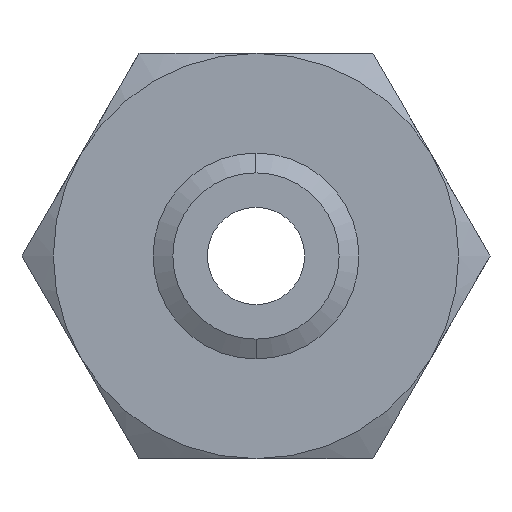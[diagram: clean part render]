
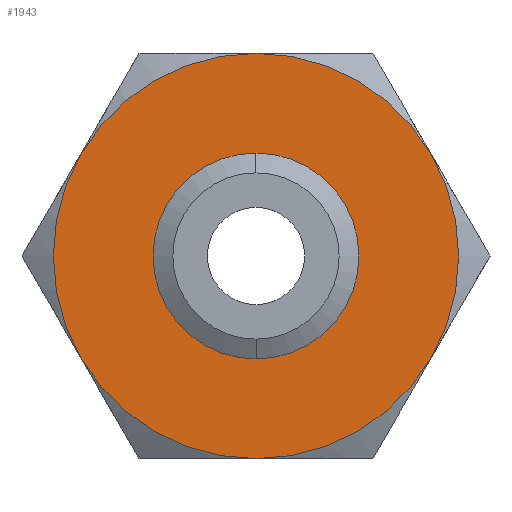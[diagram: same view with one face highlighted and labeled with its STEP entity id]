
A CAD part, front view. The second image highlights one B-rep face of the part: STEP entity #1943.
In plain terms, the highlighted planar face has unit normal (0, -1, 0).
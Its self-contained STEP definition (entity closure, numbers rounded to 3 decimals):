
#765 = CARTESIAN_POINT ( 'NONE',  ( -32.476, 0., 18.75 ) ) ;
#818 = CARTESIAN_POINT ( 'NONE',  ( -32.476, 0., -18.75 ) ) ;
#820 = DIRECTION ( 'NONE',  ( 0., 0., 1. ) ) ;
#821 = DIRECTION ( 'NONE',  ( 0., 1., 0. ) ) ;
#822 = CARTESIAN_POINT ( 'NONE',  ( 0., 0., 0. ) ) ;
#823 = AXIS2_PLACEMENT_3D ( 'NONE', #822, #821, #820 ) ;
#824 = CIRCLE ( 'NONE', #823, 37.5 ) ;
#831 = CARTESIAN_POINT ( 'NONE',  ( 0., 0., 37.5 ) ) ;
#832 = DIRECTION ( 'NONE',  ( 0., 0., 1. ) ) ;
#833 = DIRECTION ( 'NONE',  ( 0., 1., 0. ) ) ;
#834 = CARTESIAN_POINT ( 'NONE',  ( 0., 0., 0. ) ) ;
#835 = AXIS2_PLACEMENT_3D ( 'NONE', #834, #833, #832 ) ;
#836 = CIRCLE ( 'NONE', #835, 37.5 ) ;
#837 = DIRECTION ( 'NONE',  ( 0., 0., 1. ) ) ;
#838 = DIRECTION ( 'NONE',  ( 0., 1., 0. ) ) ;
#839 = CARTESIAN_POINT ( 'NONE',  ( 0., 0., 0. ) ) ;
#840 = AXIS2_PLACEMENT_3D ( 'NONE', #839, #838, #837 ) ;
#841 = CIRCLE ( 'NONE', #840, 37.5 ) ;
#842 = CARTESIAN_POINT ( 'NONE',  ( 32.476, 0., 18.75 ) ) ;
#887 = PLANE ( 'NONE',  #889 ) ;
#888 = CARTESIAN_POINT ( 'NONE',  ( 21.651, 0., -37.5 ) ) ;
#889 = AXIS2_PLACEMENT_3D ( 'NONE', #888, #949, #948 ) ;
#890 = FACE_BOUND ( 'NONE', #1949, .T. ) ;
#896 = FACE_OUTER_BOUND ( 'NONE', #1874, .T. ) ;
#922 = DIRECTION ( 'NONE',  ( 0., 0., 1. ) ) ;
#923 = DIRECTION ( 'NONE',  ( 0., 1., 0. ) ) ;
#924 = CARTESIAN_POINT ( 'NONE',  ( 0., 0., 0. ) ) ;
#925 = AXIS2_PLACEMENT_3D ( 'NONE', #924, #923, #922 ) ;
#926 = CIRCLE ( 'NONE', #925, 37.5 ) ;
#927 = DIRECTION ( 'NONE',  ( 0., 0., 1. ) ) ;
#928 = DIRECTION ( 'NONE',  ( 0., 1., 0. ) ) ;
#929 = CARTESIAN_POINT ( 'NONE',  ( 0., 0., 0. ) ) ;
#930 = AXIS2_PLACEMENT_3D ( 'NONE', #929, #928, #927 ) ;
#931 = CIRCLE ( 'NONE', #930, 37.5 ) ;
#932 = CARTESIAN_POINT ( 'NONE',  ( 0., 0., -37.5 ) ) ;
#933 = CARTESIAN_POINT ( 'NONE',  ( 32.476, 0., -18.75 ) ) ;
#934 = DIRECTION ( 'NONE',  ( 0., 0., 1. ) ) ;
#935 = DIRECTION ( 'NONE',  ( 0., 1., 0. ) ) ;
#936 = CARTESIAN_POINT ( 'NONE',  ( 0., 0., 0. ) ) ;
#937 = AXIS2_PLACEMENT_3D ( 'NONE', #936, #935, #934 ) ;
#938 = CIRCLE ( 'NONE', #937, 37.5 ) ;
#948 = DIRECTION ( 'NONE',  ( 0., 0., 1. ) ) ;
#949 = DIRECTION ( 'NONE',  ( 0., 1., 0. ) ) ;
#1126 = DIRECTION ( 'NONE',  ( 0., 0., -1. ) ) ;
#1127 = DIRECTION ( 'NONE',  ( 0., -1., 0. ) ) ;
#1128 = CARTESIAN_POINT ( 'NONE',  ( 0., 0., 0. ) ) ;
#1129 = AXIS2_PLACEMENT_3D ( 'NONE', #1128, #1127, #1126 ) ;
#1130 = CIRCLE ( 'NONE', #1129, 15.387 ) ;
#1163 = DIRECTION ( 'NONE',  ( 0., 0., -1. ) ) ;
#1164 = DIRECTION ( 'NONE',  ( 0., -1., 0. ) ) ;
#1165 = CARTESIAN_POINT ( 'NONE',  ( 0., 0., 0. ) ) ;
#1166 = AXIS2_PLACEMENT_3D ( 'NONE', #1165, #1164, #1163 ) ;
#1172 = CIRCLE ( 'NONE', #1166, 15.387 ) ;
#1183 = CARTESIAN_POINT ( 'NONE',  ( 0., 0., -15.387 ) ) ;
#1184 = CARTESIAN_POINT ( 'NONE',  ( 0., 0., 15.387 ) ) ;
#1857 = VERTEX_POINT ( 'NONE', #765 ) ;
#1858 = EDGE_CURVE ( 'NONE', #1860, #1857, #824, .T. ) ;
#1860 = VERTEX_POINT ( 'NONE', #818 ) ;
#1864 = ORIENTED_EDGE ( 'NONE', *, *, #1858, .F. ) ;
#1874 = EDGE_LOOP ( 'NONE', ( #1883, #1886, #1864, #1954, #1950, #1952 ) ) ;
#1883 = ORIENTED_EDGE ( 'NONE', *, *, #1885, .F. ) ;
#1884 = VERTEX_POINT ( 'NONE', #842 ) ;
#1885 = EDGE_CURVE ( 'NONE', #1889, #1884, #841, .T. ) ;
#1886 = ORIENTED_EDGE ( 'NONE', *, *, #1887, .F. ) ;
#1887 = EDGE_CURVE ( 'NONE', #1857, #1889, #836, .T. ) ;
#1889 = VERTEX_POINT ( 'NONE', #831 ) ;
#1943 = ADVANCED_FACE ( 'NONE', ( #896, #890 ), #887, .F. ) ;
#1945 = ORIENTED_EDGE ( 'NONE', *, *, #2096, .F. ) ;
#1947 = ORIENTED_EDGE ( 'NONE', *, *, #2061, .F. ) ;
#1948 = EDGE_CURVE ( 'NONE', #1884, #1951, #938, .T. ) ;
#1949 = EDGE_LOOP ( 'NONE', ( #1945, #1947 ) ) ;
#1950 = ORIENTED_EDGE ( 'NONE', *, *, #1953, .F. ) ;
#1951 = VERTEX_POINT ( 'NONE', #933 ) ;
#1952 = ORIENTED_EDGE ( 'NONE', *, *, #1948, .F. ) ;
#1953 = EDGE_CURVE ( 'NONE', #1951, #1955, #931, .T. ) ;
#1954 = ORIENTED_EDGE ( 'NONE', *, *, #1956, .F. ) ;
#1955 = VERTEX_POINT ( 'NONE', #932 ) ;
#1956 = EDGE_CURVE ( 'NONE', #1955, #1860, #926, .T. ) ;
#2061 = EDGE_CURVE ( 'NONE', #2086, #2087, #1130, .T. ) ;
#2086 = VERTEX_POINT ( 'NONE', #1184 ) ;
#2087 = VERTEX_POINT ( 'NONE', #1183 ) ;
#2096 = EDGE_CURVE ( 'NONE', #2087, #2086, #1172, .T. ) ;
